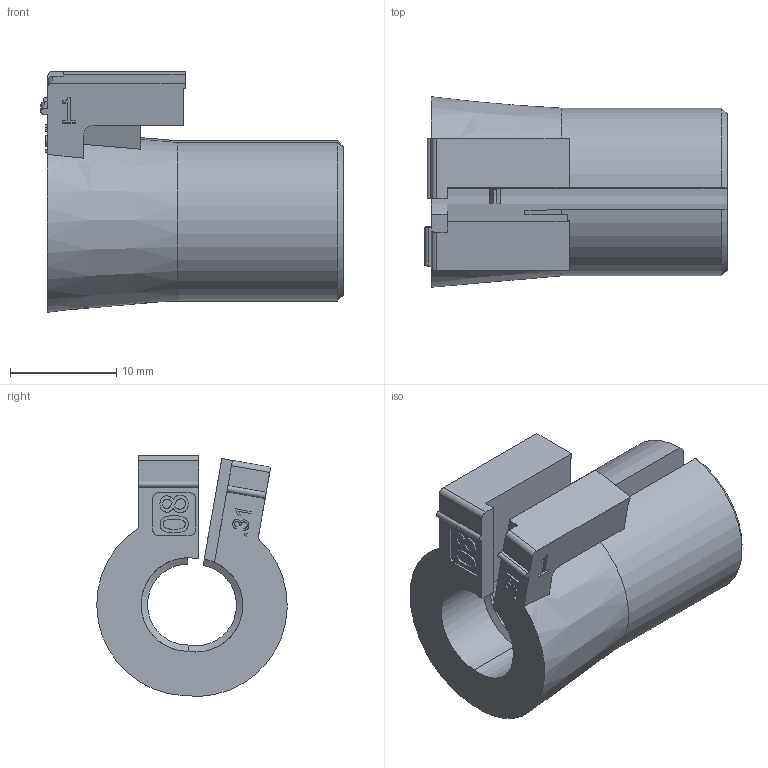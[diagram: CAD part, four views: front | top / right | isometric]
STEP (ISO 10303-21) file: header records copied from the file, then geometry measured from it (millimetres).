
FILE_DESCRIPTION(/* description */ (''),/* implementation_level */ '2;1');
FILE_NAME(/* name */ 'C:\SapWorkDir\Inventor\MP1\ConvertTempPath\87_12_121351_00_A_220602_KDT-X 08.stp',/* time_stamp */ '2022-06-02T09:06:14+02:00',/* author */ ('BAUER'),/* organization */ (''),/* preprocessor_version */ 'ST-DEVELOPER v16.13',/* originating_system */ 'Autodesk Inventor 2018',/* authorisation */ '');
FILE_SCHEMA (('AUTOMOTIVE_DESIGN { 1 0 10303 214 3 1 1 }'));
Length unit declared in the file: millimetre
Products named in the file (1): 121351
Bounding box: 28.4 x 17.9 x 22.63 mm (x, y, z)
Volume: 4129.6 mm3; surface area: 3124.5 mm2
Topology: 1 solids, 1 shells, 149 faces, 405 edges, 268 vertices
Faces by surface type: plane 73, bspline 48, cylinder 20, cone 8
Entity records: 5177 total; most frequent: CARTESIAN_POINT 1549, ORIENTED_EDGE 810, DIRECTION 560, EDGE_CURVE 405, VERTEX_POINT 268, LINE 248, VECTOR 248, EDGE_LOOP 159
